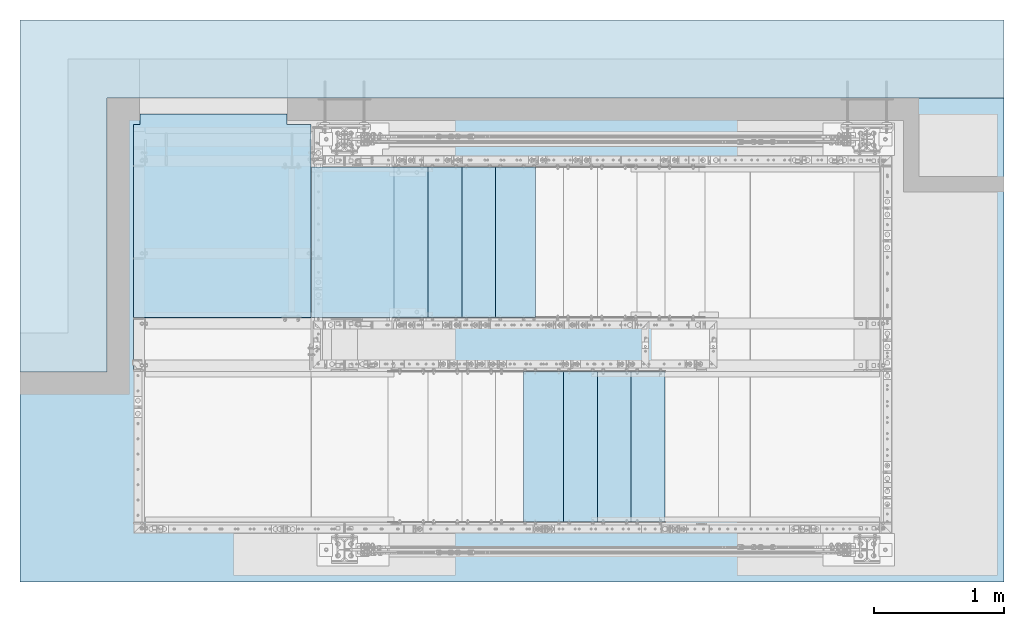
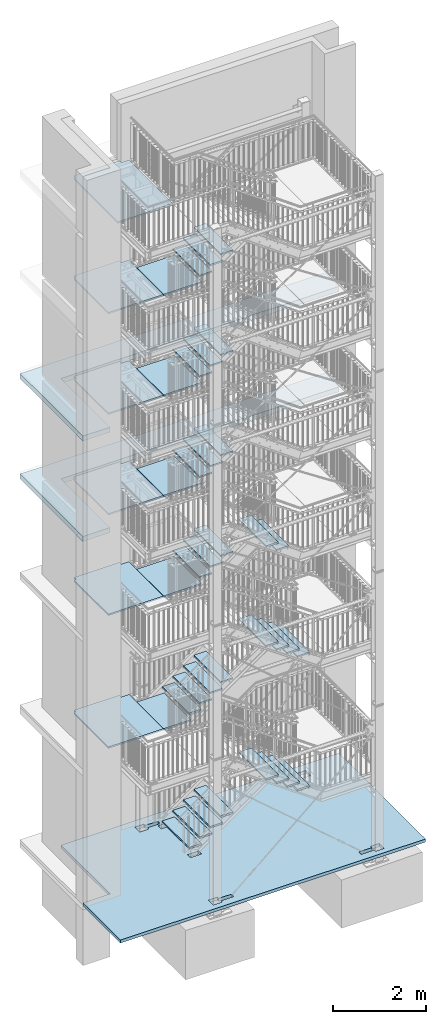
# One storey, part 142 of 825: 41 plates, 3 slabs, 26 openings.
"""IFC2X3 building model written with IfcOpenShell, lengths in millimetres."""

from ifc_helpers import new_model, entity, si_unit, converted_unit, frame, origin, origin_with_axes, place, context, project, spatial, polyline, outline, extrude, material, layer, layer_set, element, save


model = new_model("IFC2X3")

# Units and contexts
model_context = context("Model", 3, precision=1e-09, world=origin_with_axes())
ifc_project = project(units=[si_unit("LENGTHUNIT", "METRE", prefix="MILLI"), si_unit("AREAUNIT", "SQUARE_METRE"), si_unit("VOLUMEUNIT", "CUBIC_METRE"), converted_unit("PLANEANGLEUNIT", "DEGREE", entity("IfcPlaneAngleMeasure", 0.01745329), si_unit("PLANEANGLEUNIT", "RADIAN"), dimensions=[0, 0, 0, 0, 0, 0, 0])], contexts=[model_context])

# Site, building, storey
site_placement = place(None, origin_with_axes())
site = spatial("IfcSite", under=ifc_project, at=site_placement, Name="Cnopf'sche Kinderklinik", CompositionType="ELEMENT")
building_placement = place(site_placement, origin_with_axes())
building = spatial("IfcBuilding", under=site, at=building_placement, Name="Struktur 1", CompositionType="ELEMENT")
storey_placement = place(building_placement, origin_with_axes())
storey = spatial("IfcBuildingStorey", under=building, at=storey_placement, Name="Default Storey", CompositionType="ELEMENT", Elevation=0.0)

# Plates
ifc_material_1 = material(Name="S235JR")
ifc_layer_1 = layer(ifc_material_1, 40.0)
ifc_layer_set_1 = layer_set([ifc_layer_1], Name="S235JR")
plate_1_placement = place(None, frame((5909.213402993, 6726.736971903, 10327.2857148), z_axis=(0.0, 0.0, 1.0), x_axis=(0.0, 1.0, 0.0)))
element("IfcPlate", 1, at=plate_1_placement, inside=storey, material=ifc_layer_set_1, Name="Grate_Step#8", ObjectType="Grate_Step#8", context=model_context, shape_type="SweptSolid", body=[
    extrude(outline(polyline([(-577.0, -152.5), (577.0, -152.5), (577.0, 152.5), (-577.0, 152.5), (-577.0, -152.5)])), origin_with_axes(), (0.0, 0.0, 1.0), 40.0),
])
plate_2_placement = place(None, frame((5649.213402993, 6726.736971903, 10139.6428577), z_axis=(0.0, 0.0, 1.0), x_axis=(0.0, 1.0, 0.0)))
element("IfcPlate", 2, at=plate_2_placement, inside=storey, material=ifc_layer_set_1, Name="Grate_Step#1", ObjectType="Grate_Step#1", context=model_context, shape_type="SweptSolid", body=[
    extrude(outline(polyline([(-577.0, -152.5), (577.0, -152.5), (577.0, 152.5), (-577.0, 152.5), (-577.0, -152.5)])), origin_with_axes(), (0.0, 0.0, 1.0), 40.0),
])
for number, where, z_axis, x_axis, name in (
    (3, (6169.213402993, 6726.736971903, 10514.9285719), (0.0, 0.0, 1.0), (0.0, 1.0, 0.0), "Grate_Step#15"),
    (4, (6169.213402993, 6726.736971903, 7884.0), (0.0, 0.0, 1.0), (0.0, 1.0, 0.0), "Grate_Step#15"),
):
    element("IfcPlate", number, at=place(None, frame(where, z_axis=z_axis, x_axis=x_axis)), inside=storey, material=ifc_layer_set_1, Name=name, ObjectType="Grate_Step#15", context=model_context, shape_type="SweptSolid", body=[
        extrude(outline(polyline([(-577.0, -152.5), (577.0, -152.5), (577.0, 152.5), (-577.0, 152.5), (-577.0, -152.5)])), origin_with_axes(), (0.0, 0.0, 1.0), 40.0),
    ])
plate_3_placement = place(None, frame((5649.213402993, 6726.736971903, 7508.0), z_axis=(0.0, 0.0, 1.0), x_axis=(0.0, 1.0, 0.0)))
element("IfcPlate", 5, at=plate_3_placement, inside=storey, material=ifc_layer_set_1, Name="Grate_Step#1", ObjectType="Grate_Step#1", context=model_context, shape_type="SweptSolid", body=[
    extrude(outline(polyline([(-577.0, -152.5), (577.0, -152.5), (577.0, 152.5), (-577.0, 152.5), (-577.0, -152.5)])), origin_with_axes(), (0.0, 0.0, 1.0), 40.0),
])
plate_4_placement = place(None, frame((5909.213402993, 6726.736971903, 7696.0), z_axis=(0.0, 0.0, 1.0), x_axis=(0.0, 1.0, 0.0)))
element("IfcPlate", 6, at=plate_4_placement, inside=storey, material=ifc_layer_set_1, Name="Grate_Step#8", ObjectType="Grate_Step#8", context=model_context, shape_type="SweptSolid", body=[
    extrude(outline(polyline([(-577.0, -152.5), (577.0, -152.5), (577.0, 152.5), (-577.0, 152.5), (-577.0, -152.5)])), origin_with_axes(), (0.0, 0.0, 1.0), 40.0),
])
plate_5_placement = place(None, frame((6169.213402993, 6726.736971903, 13143.6428573), z_axis=(0.0, 0.0, 1.0), x_axis=(0.0, 1.0, 0.0)))
element("IfcPlate", 7, at=plate_5_placement, inside=storey, material=ifc_layer_set_1, Name="Grate_Step#15", ObjectType="Grate_Step#15", context=model_context, shape_type="SweptSolid", body=[
    extrude(outline(polyline([(-577.0, -152.5), (577.0, -152.5), (577.0, 152.5), (-577.0, 152.5), (-577.0, -152.5)])), origin_with_axes(), (0.0, 0.0, 1.0), 40.0),
])
plate_6_placement = place(None, frame((5649.213402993, 6726.736971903, 12767.2142859), z_axis=(0.0, 0.0, 1.0), x_axis=(0.0, 1.0, 0.0)))
element("IfcPlate", 8, at=plate_6_placement, inside=storey, material=ifc_layer_set_1, Name="Grate_Step#1", ObjectType="Grate_Step#1", context=model_context, shape_type="SweptSolid", body=[
    extrude(outline(polyline([(-577.0, -152.5), (577.0, -152.5), (577.0, 152.5), (-577.0, 152.5), (-577.0, -152.5)])), origin_with_axes(), (0.0, 0.0, 1.0), 40.0),
])
plate_7_placement = place(None, frame((5909.213402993, 6726.736971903, 12955.4285716), z_axis=(0.0, 0.0, 1.0), x_axis=(0.0, 1.0, 0.0)))
element("IfcPlate", 9, at=plate_7_placement, inside=storey, material=ifc_layer_set_1, Name="Grate_Step#8", ObjectType="Grate_Step#8", context=model_context, shape_type="SweptSolid", body=[
    extrude(outline(polyline([(-577.0, -152.5), (577.0, -152.5), (577.0, 152.5), (-577.0, 152.5), (-577.0, -152.5)])), origin_with_axes(), (0.0, 0.0, 1.0), 40.0),
])
plate_8_placement = place(None, frame((6169.213402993, 6726.736971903, 15775.4285719), z_axis=(0.0, 0.0, 1.0), x_axis=(0.0, 1.0, 0.0)))
element("IfcPlate", 10, at=plate_8_placement, inside=storey, material=ifc_layer_set_1, Name="Grate_Step#15", ObjectType="Grate_Step#15", context=model_context, shape_type="SweptSolid", body=[
    extrude(outline(polyline([(-577.0, -152.5), (577.0, -152.5), (577.0, 152.5), (-577.0, 152.5), (-577.0, -152.5)])), origin_with_axes(), (0.0, 0.0, 1.0), 40.0),
])
plate_9_placement = place(None, frame((5649.213402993, 6726.736971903, 15401.1428577), z_axis=(0.0, 0.0, 1.0), x_axis=(0.0, 1.0, 0.0)))
element("IfcPlate", 11, at=plate_9_placement, inside=storey, material=ifc_layer_set_1, Name="Grate_Step#1", ObjectType="Grate_Step#1", context=model_context, shape_type="SweptSolid", body=[
    extrude(outline(polyline([(-577.0, -152.5), (577.0, -152.5), (577.0, 152.5), (-577.0, 152.5), (-577.0, -152.5)])), origin_with_axes(), (0.0, 0.0, 1.0), 40.0),
])
plate_10_placement = place(None, frame((5909.213402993, 6726.736971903, 15588.2857148), z_axis=(0.0, 0.0, 1.0), x_axis=(0.0, 1.0, 0.0)))
element("IfcPlate", 12, at=plate_10_placement, inside=storey, material=ifc_layer_set_1, Name="Grate_Step#8", ObjectType="Grate_Step#8", context=model_context, shape_type="SweptSolid", body=[
    extrude(outline(polyline([(-577.0, -152.5), (577.0, -152.5), (577.0, 152.5), (-577.0, 152.5), (-577.0, -152.5)])), origin_with_axes(), (0.0, 0.0, 1.0), 40.0),
])
plate_11_placement = place(None, frame((6644.213402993, 5156.736971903, 8824.0), z_axis=(0.0, 0.0, 1.0), x_axis=(0.0, -1.0, 0.0)))
element("IfcPlate", 13, at=plate_11_placement, inside=storey, material=ifc_layer_set_1, Name="Grate_Step#1", ObjectType="Grate_Step#1", context=model_context, shape_type="SweptSolid", body=[
    extrude(outline(polyline([(-577.0, -152.5), (577.0, -152.5), (577.0, 152.5), (-577.0, 152.5), (-577.0, -152.5)])), origin_with_axes(), (0.0, 0.0, 1.0), 40.0),
])
plate_12_placement = place(None, frame((6384.213402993, 5156.736971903, 9012.0), z_axis=(0.0, 0.0, 1.0), x_axis=(0.0, -1.0, 0.0)))
element("IfcPlate", 14, at=plate_12_placement, inside=storey, material=ifc_layer_set_1, Name="Grate_Step#8", ObjectType="Grate_Step#8", context=model_context, shape_type="SweptSolid", body=[
    extrude(outline(polyline([(-577.0, -152.5), (577.0, -152.5), (577.0, 152.5), (-577.0, 152.5), (-577.0, -152.5)])), origin_with_axes(), (0.0, 0.0, 1.0), 40.0),
])
plate_13_placement = place(None, frame((5909.213402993, 6726.736971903, 885.3157888), z_axis=(0.0, 0.0, 1.0), x_axis=(0.0, 1.0, 0.0)))
element("IfcPlate", 15, at=plate_13_placement, inside=storey, material=ifc_layer_set_1, Name="Grate_Step#15", ObjectType="Grate_Step#15", context=model_context, shape_type="SweptSolid", body=[
    extrude(outline(polyline([(-577.0, -152.5), (577.0, -152.5), (577.0, 152.5), (-577.0, 152.5), (-577.0, -152.5)])), origin_with_axes(), (0.0, 0.0, 1.0), 40.0),
])
for number, where, z_axis, x_axis, name in (
    (16, (5649.213402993, 6726.736971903, 700.2105256), (0.0, 0.0, 1.0), (0.0, 1.0, 0.0), "Grate_Step#8"),
    (17, (5649.213402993, 6726.736971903, 4212.5789471), (0.0, 0.0, 1.0), (0.0, 1.0, 0.0), "Grate_Step#8"),
):
    element("IfcPlate", number, at=place(None, frame(where, z_axis=z_axis, x_axis=x_axis)), inside=storey, material=ifc_layer_set_1, Name=name, ObjectType="Grate_Step#8", context=model_context, shape_type="SweptSolid", body=[
        extrude(outline(polyline([(-577.0, -152.5), (577.0, -152.5), (577.0, 152.5), (-577.0, 152.5), (-577.0, -152.5)])), origin_with_axes(), (0.0, 0.0, 1.0), 40.0),
    ])
plate_14_placement = place(None, frame((6169.213402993, 6726.736971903, 4578.1578945), z_axis=(0.0, 0.0, 1.0), x_axis=(0.0, 1.0, 0.0)))
element("IfcPlate", 18, at=plate_14_placement, inside=storey, material=ifc_layer_set_1, Name="Grate_Step#22", ObjectType="Grate_Step#22", context=model_context, shape_type="SweptSolid", body=[
    extrude(outline(polyline([(-577.0, -152.5), (577.0, -152.5), (577.0, 152.5), (-577.0, 152.5), (-577.0, -152.5)])), origin_with_axes(), (0.0, 0.0, 1.0), 40.0),
])
plate_15_placement = place(None, frame((5389.213402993, 6726.736971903, 4029.7894734), z_axis=(0.0, 0.0, 1.0), x_axis=(0.0, 1.0, 0.0)))
element("IfcPlate", 19, at=plate_15_placement, inside=storey, material=ifc_layer_set_1, Name="Grate_Step#1", ObjectType="Grate_Step#1", context=model_context, shape_type="SweptSolid", body=[
    extrude(outline(polyline([(-577.0, -152.5), (577.0, -152.5), (577.0, 152.5), (-577.0, 152.5), (-577.0, -152.5)])), origin_with_axes(), (0.0, 0.0, 1.0), 40.0),
])
plate_16_placement = place(None, frame((6169.213402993, 6726.736971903, 1070.421052), z_axis=(0.0, 0.0, 1.0), x_axis=(0.0, 1.0, 0.0)))
element("IfcPlate", 20, at=plate_16_placement, inside=storey, material=ifc_layer_set_1, Name="Grate_Step#22", ObjectType="Grate_Step#22", context=model_context, shape_type="SweptSolid", body=[
    extrude(outline(polyline([(-577.0, -152.5), (577.0, -152.5), (577.0, 152.5), (-577.0, 152.5), (-577.0, -152.5)])), origin_with_axes(), (0.0, 0.0, 1.0), 40.0),
])
plate_17_placement = place(None, frame((5389.213402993, 6726.736971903, 515.1052624), z_axis=(0.0, 0.0, 1.0), x_axis=(0.0, 1.0, 0.0)))
element("IfcPlate", 21, at=plate_17_placement, inside=storey, material=ifc_layer_set_1, Name="Grate_Step#1", ObjectType="Grate_Step#1", context=model_context, shape_type="SweptSolid", body=[
    extrude(outline(polyline([(-577.0, -152.5), (577.0, -152.5), (577.0, 152.5), (-577.0, 152.5), (-577.0, -152.5)])), origin_with_axes(), (0.0, 0.0, 1.0), 40.0),
])
plate_18_placement = place(None, frame((5909.213402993, 6726.736971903, 4395.3684208), z_axis=(0.0, 0.0, 1.0), x_axis=(0.0, 1.0, 0.0)))
element("IfcPlate", 22, at=plate_18_placement, inside=storey, material=ifc_layer_set_1, Name="Grate_Step#15", ObjectType="Grate_Step#15", context=model_context, shape_type="SweptSolid", body=[
    extrude(outline(polyline([(-577.0, -152.5), (577.0, -152.5), (577.0, 152.5), (-577.0, 152.5), (-577.0, -152.5)])), origin_with_axes(), (0.0, 0.0, 1.0), 40.0),
])
plate_19_placement = place(None, frame((6384.213402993, 5156.736971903, 6406.0526315), z_axis=(0.0, 0.0, 1.0), x_axis=(0.0, -1.0, 0.0)))
element("IfcPlate", 23, at=plate_19_placement, inside=storey, material=ifc_layer_set_1, Name="Grate_Step#22", ObjectType="Grate_Step#22", context=model_context, shape_type="SweptSolid", body=[
    extrude(outline(polyline([(-577.0, -152.5), (577.0, -152.5), (577.0, 152.5), (-577.0, 152.5), (-577.0, -152.5)])), origin_with_axes(), (0.0, 0.0, 1.0), 40.0),
])
plate_20_placement = place(None, frame((7164.213402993, 5156.736971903, 5857.6842104), z_axis=(0.0, 0.0, 1.0), x_axis=(0.0, -1.0, 0.0)))
element("IfcPlate", 24, at=plate_20_placement, inside=storey, material=ifc_layer_set_1, Name="Grate_Step#1", ObjectType="Grate_Step#1", context=model_context, shape_type="SweptSolid", body=[
    extrude(outline(polyline([(-577.0, -152.5), (577.0, -152.5), (577.0, 152.5), (-577.0, 152.5), (-577.0, -152.5)])), origin_with_axes(), (0.0, 0.0, 1.0), 40.0),
])
plate_21_placement = place(None, frame((6644.213402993, 5156.736971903, 2736.3684208), z_axis=(0.0, 0.0, 1.0), x_axis=(0.0, -1.0, 0.0)))
element("IfcPlate", 25, at=plate_21_placement, inside=storey, material=ifc_layer_set_1, Name="Grate_Step#15", ObjectType="Grate_Step#15", context=model_context, shape_type="SweptSolid", body=[
    extrude(outline(polyline([(-577.0, -152.5), (577.0, -152.5), (577.0, 152.5), (-577.0, 152.5), (-577.0, -152.5)])), origin_with_axes(), (0.0, 0.0, 1.0), 40.0),
])
plate_22_placement = place(None, frame((7164.213402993, 5156.736971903, 2366.1578944), z_axis=(0.0, 0.0, 1.0), x_axis=(0.0, -1.0, 0.0)))
element("IfcPlate", 26, at=plate_22_placement, inside=storey, material=ifc_layer_set_1, Name="Grate_Step#1", ObjectType="Grate_Step#1", context=model_context, shape_type="SweptSolid", body=[
    extrude(outline(polyline([(-577.0, -152.5), (577.0, -152.5), (577.0, 152.5), (-577.0, 152.5), (-577.0, -152.5)])), origin_with_axes(), (0.0, 0.0, 1.0), 40.0),
])
for number, where, z_axis, x_axis, name in (
    (27, (6904.213402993, 5156.736971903, 6040.4736841), (0.0, 0.0, 1.0), (0.0, -1.0, 0.0), "Grate_Step#8"),
    (28, (6904.213402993, 5156.736971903, 2551.2631576), (0.0, 0.0, 1.0), (0.0, -1.0, 0.0), "Grate_Step#8"),
):
    element("IfcPlate", number, at=place(None, frame(where, z_axis=z_axis, x_axis=x_axis)), inside=storey, material=ifc_layer_set_1, Name=name, ObjectType="Grate_Step#8", context=model_context, shape_type="SweptSolid", body=[
        extrude(outline(polyline([(-577.0, -152.5), (577.0, -152.5), (577.0, 152.5), (-577.0, 152.5), (-577.0, -152.5)])), origin_with_axes(), (0.0, 0.0, 1.0), 40.0),
    ])
plate_23_placement = place(None, frame((6644.213402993, 5156.736971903, 6223.2631578), z_axis=(0.0, 0.0, 1.0), x_axis=(0.0, -1.0, 0.0)))
element("IfcPlate", 29, at=plate_23_placement, inside=storey, material=ifc_layer_set_1, Name="Grate_Step#15", ObjectType="Grate_Step#15", context=model_context, shape_type="SweptSolid", body=[
    extrude(outline(polyline([(-577.0, -152.5), (577.0, -152.5), (577.0, 152.5), (-577.0, 152.5), (-577.0, -152.5)])), origin_with_axes(), (0.0, 0.0, 1.0), 40.0),
])
plate_24_placement = place(None, frame((6384.213402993, 5156.736971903, 2921.473684), z_axis=(0.0, 0.0, 1.0), x_axis=(0.0, -1.0, 0.0)))
element("IfcPlate", 30, at=plate_24_placement, inside=storey, material=ifc_layer_set_1, Name="Grate_Step#22", ObjectType="Grate_Step#22", context=model_context, shape_type="SweptSolid", body=[
    extrude(outline(polyline([(-577.0, -152.5), (577.0, -152.5), (577.0, 152.5), (-577.0, 152.5), (-577.0, -152.5)])), origin_with_axes(), (0.0, 0.0, 1.0), 40.0),
])

# Plate, openings
plate_25_placement = place(None, frame((5236.713402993, 5736.736971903, 17834.0), z_axis=(0.0, 0.0, 1.0), x_axis=(-1.0, 0.0, 0.0)))
plate_25 = element("IfcPlate", 31, at=plate_25_placement, inside=storey, material=ifc_layer_set_1, Name="TopCoverGrate", ObjectType="TopCoverGrate", context=model_context, shape_type="SweptSolid", body=[
    extrude(outline(polyline([(635.0, -2.0), (635.0, -1975.0), (2000.0, -1975.0), (2000.0, -2.0), (635.0, -2.0)])), origin_with_axes(), (0.0, 0.0, 1.0), 40.0),
])
opening_1_placement = place(plate_25_placement, frame((0.0, 0.0, -0.1), z_axis=(0.0, 0.0, 1.0), x_axis=(-1.0, 0.0, 0.0)))
element("IfcOpeningElement", 32, at=opening_1_placement, cuts=plate_25, ObjectType="Opening", context=model_context, shape_type="SweptSolid", body=[
    extrude(outline(polyline([(-2047.903449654, 1895.002), (-1946.999292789, 1895.002), (-1946.999292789, 2034.091654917), (-2047.903449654, 2034.091654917), (-2047.903449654, 1895.002)])), origin(), (0.0, 0.0, 1.0), 40.2),
])
opening_2_placement = place(plate_25_placement, frame((0.0, 0.0, -0.1), z_axis=(0.0, 0.0, 1.0), x_axis=(-1.0, 0.0, 0.0)))
element("IfcOpeningElement", 33, at=opening_2_placement, cuts=plate_25, ObjectType="Opening", context=model_context, shape_type="SweptSolid", body=[
    extrude(outline(polyline([(-822.002, 1895.002), (-592.156333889, 1895.002), (-592.156333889, 2026.457267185), (-822.002, 2026.457267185), (-822.002, 1895.002)])), origin(), (0.0, 0.0, 1.0), 40.2),
])

plate_26_placement = place(None, frame((5541.713402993, 6148.736971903, 15254.0), z_axis=(0.0, 0.0, -1.0), x_axis=(-1.0, 0.0, 0.0)))
plate_26 = element("IfcPlate", 34, at=plate_26_placement, inside=storey, material=ifc_layer_set_1, Name="BottomCoverGrate", ObjectType="BottomCoverGrate", context=model_context, shape_type="SweptSolid", body=[
    extrude(outline(polyline([(940.0, 1563.0), (940.0, 0.0), (2305.0, 0.0), (2305.0, 1563.0), (940.0, 1563.0)])), origin_with_axes(), (0.0, 0.0, 1.0), 40.0),
])
opening_3_placement = place(plate_26_placement, frame((0.0, 0.0, -0.1), z_axis=(0.0, 0.0, 1.0), x_axis=(0.0, 1.0, 0.0)))
element("IfcOpeningElement", 35, at=opening_3_placement, cuts=plate_26, ObjectType="Opening", context=model_context, shape_type="SweptSolid", body=[
    extrude(outline(polyline([(1483.002, -1127.001), (1613.116493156, -1127.001), (1613.116493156, -894.923976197), (1483.002, -894.923976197), (1483.002, -1127.001)])), origin(), (0.0, 0.0, 1.0), 40.2),
])
opening_4_placement = place(plate_26_placement, frame((0.0, 0.0, -0.1), z_axis=(0.0, 0.0, 1.0), x_axis=(0.0, 1.0, 0.0)))
element("IfcOpeningElement", 36, at=opening_4_placement, cuts=plate_26, ObjectType="Opening", context=model_context, shape_type="SweptSolid", body=[
    extrude(outline(polyline([(1483.002, -2352.962104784), (1617.33985816, -2352.962104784), (1617.33985816, -2252.0), (1483.002, -2252.0), (1483.002, -2352.962104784)])), origin(), (0.0, 0.0, 1.0), 40.2),
])

# Plate
plate_27_placement = place(None, frame((5541.713402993, 6148.736971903, 15254.0), z_axis=(0.0, 0.0, -1.0), x_axis=(-1.0, 0.0, 0.0)))
element("IfcPlate", 37, at=plate_27_placement, inside=storey, material=ifc_layer_set_1, Name="BottomCoverGrate", ObjectType="BottomCoverGrate", context=model_context, shape_type="SweptSolid", body=[
    extrude(outline(polyline([(938.0, 1156.0), (0.0, 1156.0), (0.0, 0.0), (938.0, 0.0), (938.0, 1156.0)])), origin_with_axes(), (0.0, 0.0, 1.0), 40.0),
])

# Plate, openings
plate_28_placement = place(None, frame((5541.713402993, 6148.736971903, 12619.0), z_axis=(0.0, 0.0, -1.0), x_axis=(-1.0, 0.0, 0.0)))
plate_28 = element("IfcPlate", 38, at=plate_28_placement, inside=storey, material=ifc_layer_set_1, Name="BottomCoverGrate", ObjectType="BottomCoverGrate", context=model_context, shape_type="SweptSolid", body=[
    extrude(outline(polyline([(940.0, 1563.0), (940.0, 0.0), (2305.0, 0.0), (2305.0, 1563.0), (940.0, 1563.0)])), origin_with_axes(), (0.0, 0.0, 1.0), 40.0),
])
opening_5_placement = place(plate_28_placement, frame((0.0, 0.0, -0.1), z_axis=(0.0, 0.0, 1.0), x_axis=(0.0, 1.0, 0.0)))
element("IfcOpeningElement", 39, at=opening_5_placement, cuts=plate_28, ObjectType="Opening", context=model_context, shape_type="SweptSolid", body=[
    extrude(outline(polyline([(1482.998, -1127.005), (1617.863787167, -1127.005), (1617.863787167, -891.503049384), (1482.998, -891.503049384), (1482.998, -1127.005)])), origin(), (0.0, 0.0, 1.0), 40.2),
])
opening_6_placement = place(plate_28_placement, frame((0.0, 0.0, -0.1), z_axis=(0.0, 0.0, 1.0), x_axis=(0.0, 1.0, 0.0)))
element("IfcOpeningElement", 40, at=opening_6_placement, cuts=plate_28, ObjectType="Opening", context=model_context, shape_type="SweptSolid", body=[
    extrude(outline(polyline([(1482.999, -2349.145060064), (1619.251351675, -2349.145060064), (1619.251351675, -2251.996292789), (1482.999, -2251.996292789), (1482.999, -2349.145060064)])), origin(), (0.0, 0.0, 1.0), 40.2),
])

# Plate
plate_29_placement = place(None, frame((5541.713402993, 6148.736971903, 12619.0), z_axis=(0.0, 0.0, -1.0), x_axis=(-1.0, 0.0, 0.0)))
element("IfcPlate", 41, at=plate_29_placement, inside=storey, material=ifc_layer_set_1, Name="BottomCoverGrate", ObjectType="BottomCoverGrate", context=model_context, shape_type="SweptSolid", body=[
    extrude(outline(polyline([(938.0, 1156.0), (0.0, 1156.0), (0.0, 0.0), (938.0, 0.0), (938.0, 1156.0)])), origin_with_axes(), (0.0, 0.0, 1.0), 40.0),
])

# Plate, openings
plate_30_placement = place(None, frame((5541.713402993, 6148.736971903, 9992.0), z_axis=(0.0, 0.0, -1.0), x_axis=(-1.0, 0.0, 0.0)))
plate_30 = element("IfcPlate", 42, at=plate_30_placement, inside=storey, material=ifc_layer_set_1, Name="BottomCoverGrate", ObjectType="BottomCoverGrate", context=model_context, shape_type="SweptSolid", body=[
    extrude(outline(polyline([(940.0, 1563.0), (940.0, 0.0), (2305.0, 0.0), (2305.0, 1563.0), (940.0, 1563.0)])), origin_with_axes(), (0.0, 0.0, 1.0), 40.0),
])
opening_7_placement = place(plate_30_placement, frame((0.0, 0.0, -0.1), z_axis=(0.0, 0.0, 1.0), x_axis=(0.0, 1.0, 0.0)))
element("IfcOpeningElement", 43, at=opening_7_placement, cuts=plate_30, ObjectType="Opening", context=model_context, shape_type="SweptSolid", body=[
    extrude(outline(polyline([(1482.999, -1127.004), (1617.863787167, -1127.004), (1617.863787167, -891.503049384), (1482.999, -891.503049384), (1482.999, -1127.004)])), origin(), (0.0, 0.0, 1.0), 40.2),
])
opening_8_placement = place(plate_30_placement, frame((0.0, 0.0, -0.1), z_axis=(0.0, 0.0, 1.0), x_axis=(0.0, 1.0, 0.0)))
element("IfcOpeningElement", 44, at=opening_8_placement, cuts=plate_30, ObjectType="Opening", context=model_context, shape_type="SweptSolid", body=[
    extrude(outline(polyline([(1483.0, -2349.145060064), (1619.251351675, -2349.145060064), (1619.251351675, -2251.997292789), (1483.0, -2251.997292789), (1483.0, -2349.145060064)])), origin(), (0.0, 0.0, 1.0), 40.2),
])

# Plate
plate_31_placement = place(None, frame((5541.713402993, 6148.736971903, 9992.0), z_axis=(0.0, 0.0, -1.0), x_axis=(-1.0, 0.0, 0.0)))
element("IfcPlate", 45, at=plate_31_placement, inside=storey, material=ifc_layer_set_1, Name="BottomCoverGrate", ObjectType="BottomCoverGrate", context=model_context, shape_type="SweptSolid", body=[
    extrude(outline(polyline([(938.0, 1156.0), (0.0, 1156.0), (0.0, 0.0), (938.0, 0.0), (938.0, 1156.0)])), origin_with_axes(), (0.0, 0.0, 1.0), 40.0),
])

# Plate, openings
plate_32_placement = place(None, frame((5541.713402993, 6148.736971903, 7360.0), z_axis=(0.0, 0.0, -1.0), x_axis=(-1.0, 0.0, 0.0)))
plate_32 = element("IfcPlate", 46, at=plate_32_placement, inside=storey, material=ifc_layer_set_1, Name="BottomCoverGrate", ObjectType="BottomCoverGrate", context=model_context, shape_type="SweptSolid", body=[
    extrude(outline(polyline([(940.0, 1563.0), (940.0, 0.0), (2305.0, 0.0), (2305.0, 1563.0), (940.0, 1563.0)])), origin_with_axes(), (0.0, 0.0, 1.0), 40.0),
])
opening_9_placement = place(plate_32_placement, frame((0.0, 0.0, -0.1), z_axis=(0.0, 0.0, 1.0), x_axis=(0.0, 1.0, 0.0)))
element("IfcOpeningElement", 47, at=opening_9_placement, cuts=plate_32, ObjectType="Opening", context=model_context, shape_type="SweptSolid", body=[
    extrude(outline(polyline([(1483.0, -1127.003), (1617.863787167, -1127.003), (1617.863787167, -891.503049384), (1483.0, -891.503049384), (1483.0, -1127.003)])), origin(), (0.0, 0.0, 1.0), 40.2),
])
opening_10_placement = place(plate_32_placement, frame((0.0, 0.0, -0.1), z_axis=(0.0, 0.0, 1.0), x_axis=(0.0, 1.0, 0.0)))
element("IfcOpeningElement", 48, at=opening_10_placement, cuts=plate_32, ObjectType="Opening", context=model_context, shape_type="SweptSolid", body=[
    extrude(outline(polyline([(1483.001, -2349.145060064), (1619.251351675, -2349.145060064), (1619.251351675, -2251.998292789), (1483.001, -2251.998292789), (1483.001, -2349.145060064)])), origin(), (0.0, 0.0, 1.0), 40.2),
])

# Plate
plate_33_placement = place(None, frame((5541.713402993, 6148.736971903, 7360.0), z_axis=(0.0, 0.0, -1.0), x_axis=(-1.0, 0.0, 0.0)))
element("IfcPlate", 49, at=plate_33_placement, inside=storey, material=ifc_layer_set_1, Name="BottomCoverGrate", ObjectType="BottomCoverGrate", context=model_context, shape_type="SweptSolid", body=[
    extrude(outline(polyline([(938.0, 1156.0), (0.0, 1156.0), (0.0, 0.0), (938.0, 0.0), (938.0, 1156.0)])), origin_with_axes(), (0.0, 0.0, 1.0), 40.0),
])

# Plate, openings
plate_34_placement = place(None, frame((5281.713402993, 6148.736971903, 3887.0), z_axis=(0.0, 0.0, -1.0), x_axis=(-1.0, 0.0, 0.0)))
plate_34 = element("IfcPlate", 50, at=plate_34_placement, inside=storey, material=ifc_layer_set_1, Name="BottomCoverGrate", ObjectType="BottomCoverGrate", context=model_context, shape_type="SweptSolid", body=[
    extrude(outline(polyline([(680.0, 1563.0), (680.0, 0.0), (2045.0, 0.0), (2045.0, 1563.0), (680.0, 1563.0)])), origin_with_axes(), (0.0, 0.0, 1.0), 40.0),
])
opening_11_placement = place(plate_34_placement, frame((0.0, 0.0, -0.1), z_axis=(0.0, 0.0, 1.0), x_axis=(0.0, 1.0, 0.0)))
element("IfcOpeningElement", 51, at=opening_11_placement, cuts=plate_34, ObjectType="Opening", context=model_context, shape_type="SweptSolid", body=[
    extrude(outline(polyline([(1483.001, -2089.145060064), (1619.251351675, -2089.145060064), (1619.251351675, -1991.999), (1483.001, -1991.999), (1483.001, -2089.145060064)])), origin(), (0.0, 0.0, 1.0), 40.2),
])
opening_12_placement = place(plate_34_placement, frame((0.0, 0.0, -0.1), z_axis=(0.0, 0.0, 1.0), x_axis=(0.0, 1.0, 0.0)))
element("IfcOpeningElement", 52, at=opening_12_placement, cuts=plate_34, ObjectType="Opening", context=model_context, shape_type="SweptSolid", body=[
    extrude(outline(polyline([(1483.001, -867.002), (1617.863787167, -867.002), (1617.863787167, -631.503049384), (1483.001, -631.503049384), (1483.001, -867.002)])), origin(), (0.0, 0.0, 1.0), 40.2),
])

# Plate
plate_35_placement = place(None, frame((5281.713402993, 6148.736971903, 3887.0), z_axis=(0.0, 0.0, -1.0), x_axis=(-1.0, 0.0, 0.0)))
element("IfcPlate", 53, at=plate_35_placement, inside=storey, material=ifc_layer_set_1, Name="BottomCoverGrate", ObjectType="BottomCoverGrate", context=model_context, shape_type="SweptSolid", body=[
    extrude(outline(polyline([(678.0, 1156.0), (0.0, 1156.0), (0.0, 0.0), (678.0, 0.0), (678.0, 1156.0)])), origin_with_axes(), (0.0, 0.0, 1.0), 40.0),
])

# Slab, opening
ifc_material_2 = material(Name="C25/30")
ifc_layer_2 = layer(ifc_material_2, 130.0)
ifc_layer_set_2 = layer_set([ifc_layer_2], Name="C25/30")
slab_1_placement = place(None, frame((6142.06017303, 7081.736471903, 9822.0), z_axis=(0.0, 0.0, 1.0), x_axis=(1.0, 0.0, 0.0)))
slab_1 = element("IfcSlab", 54, at=slab_1_placement, inside=storey, material=ifc_layer_set_2, Name="-", ObjectType="-", context=model_context, shape_type="SweptSolid", body=[
    extrude(outline(polyline([(-3774.653229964, -1350.0005), (3774.653229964, -1350.0005), (3774.653229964, 1350.0005), (-3774.653229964, 1350.0005), (-3774.653229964, -1350.0005)])), origin_with_axes(), (0.0, 0.0, 1.0), 130.0),
])
opening_13_placement = place(slab_1_placement, frame((0.0, 0.0, -0.1), z_axis=(0.0, 0.0, 1.0), x_axis=(1.0, 0.0, 0.0)))
element("IfcOpeningElement", 55, at=opening_13_placement, cuts=slab_1, ObjectType="Opening", context=model_context, shape_type="SweptSolid", body=[
    extrude(outline(polyline([(-3107.347770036, -1859.56610814), (4389.557341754, -1859.56610814), (4389.557341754, 750.0025), (-3107.347770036, 750.0025), (-3107.347770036, -1859.56610814)])), origin(), (0.0, 0.0, 1.0), 130.2),
])

slab_2_placement = place(None, frame((6142.06017303, 7081.736471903, 12449.0), z_axis=(0.0, 0.0, 1.0), x_axis=(1.0, 0.0, 0.0)))
slab_2 = element("IfcSlab", 56, at=slab_2_placement, inside=storey, material=ifc_layer_set_2, Name="-", ObjectType="-", context=model_context, shape_type="SweptSolid", body=[
    extrude(outline(polyline([(-3774.653229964, -1350.0005), (3774.653229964, -1350.0005), (3774.653229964, 1350.0005), (-3774.653229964, 1350.0005), (-3774.653229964, -1350.0005)])), origin_with_axes(), (0.0, 0.0, 1.0), 130.0),
])
opening_14_placement = place(slab_2_placement, frame((0.0, 0.0, -0.1), z_axis=(0.0, 0.0, 1.0), x_axis=(1.0, 0.0, 0.0)))
element("IfcOpeningElement", 57, at=opening_14_placement, cuts=slab_2, ObjectType="Opening", context=model_context, shape_type="SweptSolid", body=[
    extrude(outline(polyline([(-3107.347770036, -1859.56610814), (4389.557341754, -1859.56610814), (4389.557341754, 750.0025), (-3107.347770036, 750.0025), (-3107.347770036, -1859.56610814)])), origin(), (0.0, 0.0, 1.0), 130.2),
])

# Slab, openings
ifc_layer_3 = layer(ifc_material_2, 80.0)
ifc_layer_set_3 = layer_set([ifc_layer_3], Name="C25/30")
slab_3_placement = place(None, frame((6142.06017303, 6276.736971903, 290.0), z_axis=(0.0, 0.0, 1.0), x_axis=(1.0, 0.0, 0.0)))
slab_3 = element("IfcSlab", 58, at=slab_3_placement, inside=storey, material=ifc_layer_set_3, Name="-", ObjectType="-", context=model_context, shape_type="SweptSolid", body=[
    extrude(outline(polyline([(-3774.653229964, -2155.0), (3774.653229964, -2155.0), (3774.653229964, 2155.0), (-3774.653229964, 2155.0), (-3774.653229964, -2155.0)])), origin_with_axes(), (0.0, 0.0, 1.0), 80.0),
])
opening_15_placement = place(slab_3_placement, frame((0.0, 0.0, -0.1), z_axis=(0.0, 0.0, 1.0), x_axis=(1.0, 0.0, 0.0)))
element("IfcOpeningElement", 59, at=opening_15_placement, cuts=slab_3, ObjectType="Opening", context=model_context, shape_type="SweptSolid", body=[
    extrude(outline(polyline([(-4476.195545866, -545.001), (-3107.346770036, -545.001), (-3107.346770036, 2979.216049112), (-4476.195545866, 2979.216049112), (-4476.195545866, -545.001)])), origin(), (0.0, 0.0, 1.0), 80.2),
])
opening_16_placement = place(slab_3_placement, frame((0.0, 0.0, -0.1), z_axis=(0.0, 0.0, 1.0), x_axis=(1.0, 0.0, 0.0)))
element("IfcOpeningElement", 60, at=opening_16_placement, cuts=slab_3, ObjectType="Opening", context=model_context, shape_type="SweptSolid", body=[
    extrude(outline(polyline([(-4161.289750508, 1555.0), (4990.64168982, 1555.0), (4990.64168982, 3085.136486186), (-4161.289750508, 3085.136486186), (-4161.289750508, 1555.0)])), origin(), (0.0, 0.0, 1.0), 80.2),
])
opening_17_placement = place(slab_3_placement, frame((0.0, 0.0, -0.1), z_axis=(0.0, 0.0, 1.0), x_axis=(1.0, 0.0, 0.0)))
element("IfcOpeningElement", 61, at=opening_17_placement, cuts=slab_3, ObjectType="Opening", context=model_context, shape_type="SweptSolid", body=[
    extrude(outline(polyline([(-1395.347770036, -2015.001), (-1175.345770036, -2015.001), (-1175.345770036, -1804.999), (-1395.347770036, -1804.999), (-1395.347770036, -2015.001)])), origin(), (0.0, 0.0, 1.0), 80.2),
])
opening_18_placement = place(slab_3_placement, frame((0.0, 0.0, -0.1), z_axis=(0.0, 0.0, 1.0), x_axis=(1.0, 0.0, 0.0)))
element("IfcOpeningElement", 62, at=opening_18_placement, cuts=slab_3, ObjectType="Opening", context=model_context, shape_type="SweptSolid", body=[
    extrude(outline(polyline([(2614.652229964, -2015.001), (2834.654229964, -2015.001), (2834.654229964, -1804.999), (2614.652229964, -1804.999), (2614.652229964, -2015.001)])), origin(), (0.0, 0.0, 1.0), 80.2),
])
opening_19_placement = place(slab_3_placement, frame((0.0, 0.0, -0.1), z_axis=(0.0, 0.0, 1.0), x_axis=(1.0, 0.0, 0.0)))
element("IfcOpeningElement", 63, at=opening_19_placement, cuts=slab_3, ObjectType="Opening", context=model_context, shape_type="SweptSolid", body=[
    extrude(outline(polyline([(2614.652229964, 1134.999), (2834.654229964, 1134.999), (2834.654229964, 1345.001), (2614.652229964, 1345.001), (2614.652229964, 1134.999)])), origin(), (0.0, 0.0, 1.0), 80.2),
])
opening_20_placement = place(slab_3_placement, frame((0.0, 0.0, -0.1), z_axis=(0.0, 0.0, 1.0), x_axis=(1.0, 0.0, 0.0)))
element("IfcOpeningElement", 64, at=opening_20_placement, cuts=slab_3, ObjectType="Opening", context=model_context, shape_type="SweptSolid", body=[
    extrude(outline(polyline([(-1395.347770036, 1134.999), (-1175.345770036, 1134.999), (-1175.345770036, 1345.001), (-1395.347770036, 1345.001), (-1395.347770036, 1134.999)])), origin(), (0.0, 0.0, 1.0), 80.2),
])
opening_21_placement = place(slab_3_placement, frame((0.0, 0.0, -0.1), z_axis=(0.0, 0.0, 1.0), x_axis=(1.0, 0.0, 0.0)))
element("IfcOpeningElement", 65, at=opening_21_placement, cuts=slab_3, ObjectType="Opening", context=model_context, shape_type="SweptSolid", body=[
    extrude(outline(polyline([(-1253.447456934, -1960.001), (-855.345770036, -1960.001), (-855.345770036, -1859.999), (-1253.447456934, -1859.999), (-1253.447456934, -1960.001)])), origin(), (0.0, 0.0, 1.0), 80.2),
])
opening_22_placement = place(slab_3_placement, frame((0.0, 0.0, -0.1), z_axis=(0.0, 0.0, 1.0), x_axis=(1.0, 0.0, 0.0)))
element("IfcOpeningElement", 66, at=opening_22_placement, cuts=slab_3, ObjectType="Opening", context=model_context, shape_type="SweptSolid", body=[
    extrude(outline(polyline([(2294.652229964, -1960.001), (2691.515744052, -1960.001), (2691.515744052, -1859.999), (2294.652229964, -1859.999), (2294.652229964, -1960.001)])), origin(), (0.0, 0.0, 1.0), 80.2),
])
opening_23_placement = place(slab_3_placement, frame((0.0, 0.0, -0.1), z_axis=(0.0, 0.0, 1.0), x_axis=(1.0, 0.0, 0.0)))
element("IfcOpeningElement", 67, at=opening_23_placement, cuts=slab_3, ObjectType="Opening", context=model_context, shape_type="SweptSolid", body=[
    extrude(outline(polyline([(2294.652229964, 1189.999), (2684.889905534, 1189.999), (2684.889905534, 1290.001), (2294.652229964, 1290.001), (2294.652229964, 1189.999)])), origin(), (0.0, 0.0, 1.0), 80.2),
])
opening_24_placement = place(slab_3_placement, frame((0.0, 0.0, -0.1), z_axis=(0.0, 0.0, 1.0), x_axis=(1.0, 0.0, 0.0)))
element("IfcOpeningElement", 68, at=opening_24_placement, cuts=slab_3, ObjectType="Opening", context=model_context, shape_type="SweptSolid", body=[
    extrude(outline(polyline([(-1255.148517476, 1189.999), (-855.345770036, 1189.999), (-855.345770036, 1290.001), (-1255.148517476, 1290.001), (-1255.148517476, 1189.999)])), origin(), (0.0, 0.0, 1.0), 80.2),
])
opening_25_placement = place(slab_3_placement, frame((0.0, 0.0, -0.1), z_axis=(0.0, 0.0, 1.0), x_axis=(1.0, 0.0, 0.0)))
element("IfcOpeningElement", 69, at=opening_25_placement, cuts=slab_3, ObjectType="Opening", context=model_context, shape_type="SweptSolid", body=[
    extrude(outline(polyline([(-940.347770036, 1009.999), (-660.344849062, 1009.999), (-660.344849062, 1135.001), (-940.347770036, 1135.001), (-940.347770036, 1009.999)])), origin(), (0.0, 0.0, 1.0), 80.2),
])
opening_26_placement = place(slab_3_placement, frame((0.0, 0.0, -0.1), z_axis=(0.0, 0.0, 1.0), x_axis=(1.0, 0.0, 0.0)))
element("IfcOpeningElement", 70, at=opening_26_placement, cuts=slab_3, ObjectType="Opening", context=model_context, shape_type="SweptSolid", body=[
    extrude(outline(polyline([(-940.347770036, -235.001), (-660.344849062, -235.001), (-660.344849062, -109.999), (-940.347770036, -109.999), (-940.347770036, -235.001)])), origin(), (0.0, 0.0, 1.0), 80.2),
])

save(model, "model.ifc")
